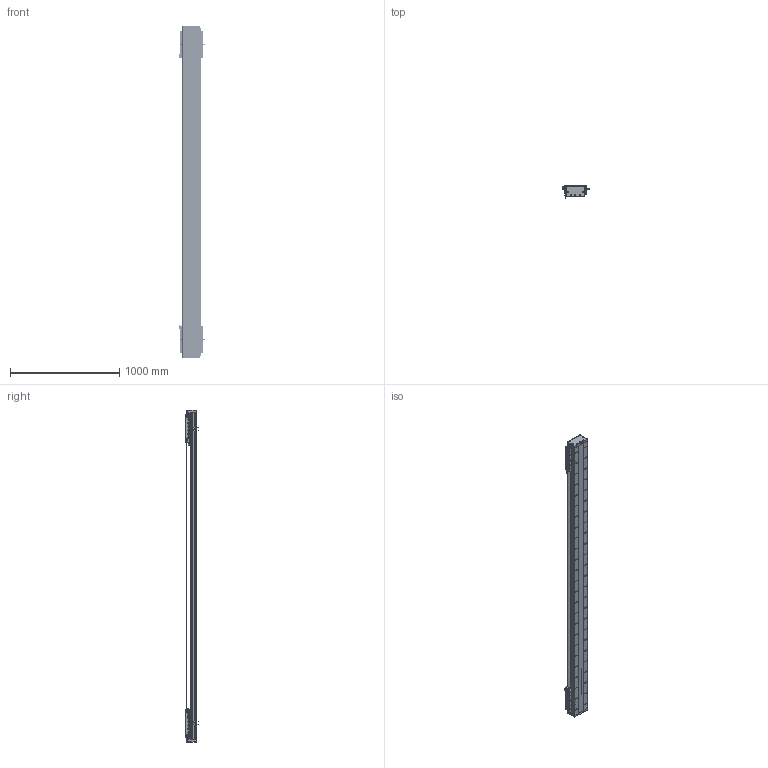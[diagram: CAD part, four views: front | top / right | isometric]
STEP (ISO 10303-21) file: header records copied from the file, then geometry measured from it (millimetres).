
FILE_DESCRIPTION (( 'STEP AP203' ), '1' );
FILE_NAME ('DA-C165-2-C3-T2420-C010-0.2 直线电机.STEP', '2023-06-13T09:17:05', ( '微软用户' ), ( '微软中国' ), 'SwSTEP 2.0', 'SolidWorks 2019', '' );
FILE_SCHEMA (( 'CONFIG_CONTROL_DESIGN' ));
Length unit declared in the file: millimetre
Products named in the file (22): 复件 DMA-010-0.2 读数头^DA-C165-C3-T-C010-0.2-N 直线电机; 复件 CU165钢带组件^DA-C165-C3-T-C010-0.2-N 直线电机; 葩璃 CKM01-W075-TRL^DA-C165-C3-T-C010-0.2-N 眻盄萇儂; 复件 DA165-GYP-00 光电感应片^DA-C165-C3-T-C010-0.2-N 直线电机; 复件 DA126-GYP-ZJ-00 中间光电感应片^DA-C165-C3-T-C010-0.2-N 直线电机; 葩璃 PM-T45^DA-C165-C3-T-C010-0.2-N 眻盄萇儂; 复件 DA165-GDYK-00 钢带压块^复件 CU165钢带组件_DA-C165-C3-T-C010-0.2-N 直线电机; 复件 XD-U-02L 磁栅尺^DA-C165-C3-T-C010-0.2-N 直线电机_T; 珨极趙賑雄怢啣C3-wf; 葩璃 PM-Y45^DA-C165-C3-T-C010-0.2-N 眻盄萇儂; 复件 DKW-HXJ-JY-00 缓冲橡胶^DA-C165-C3-T-C010-0.2-N 直线电机; 葩璃 DA95-GT-T-00^IU-CU165-L 菁釱絳寢_T; 复件 DA95-HXJ-00 缓冲橡胶^DA-C165-C3-T-C010-0.2-N 直线电机; 复件 DA165-GD-1860-002-00 钢带盖板^复件 CU165钢带组件_DA-C165-C3-T-C010-0.2-N 直线电机; 复件 六角薄螺母 M3^DA-C165-C3-T-C010-0.2-N 直线电机_GB_FASTENER_NUT_STNAB M3-C; 复件 DA165-GD-DG-H-00 端盖^复件 CU165钢带组件_DA-C165-C3-T-C010-0.2-N 直线电机; 复件 CU165 底座^IU-CU165-L 底座导轨_L3000; IU-CU165-L 菁釱絳寢; 葩璃 CKM03-W075-C1C2-TP-3.0^DA-C165-C3-T-C010-0.2-N 眻盄萇儂; 复件 DA165-GDLK-00 钢带拉块^复件 CU165钢带组件_DA-C165-C3-T-C010-0.2-N 直线电机; DA-C165-2-C3-T2420-C010-0.2 眻盄萇儂; 复件 66338-1000-006-00 光电感应块^DA-C165-C3-T-C010-0.2-N 直线电机
Assembly tree (45 placements, depth 3):
  DA-C165-2-C3-T2420-C010-0.2 眻盄萇儂
    IU-CU165-L 菁釱絳寢
      复件 CU165 底座^IU-CU165-L 底座导轨_L3000
      葩璃 DA95-GT-T-00^IU-CU165-L 菁釱絳寢_T  x4
    复件 XD-U-02L 磁栅尺^DA-C165-C3-T-C010-0.2-N 直线电机_T
    葩璃 PM-T45^DA-C165-C3-T-C010-0.2-N 眻盄萇儂  x4
    葩璃 CKM01-W075-TRL^DA-C165-C3-T-C010-0.2-N 眻盄萇儂
    复件 CU165钢带组件^DA-C165-C3-T-C010-0.2-N 直线电机
      复件 DA165-GD-DG-H-00 端盖^复件 CU165钢带组件_DA-C165-C3-T-C010-0.2-N 直线电机  x2
      复件 DA165-GDYK-00 钢带压块^复件 CU165钢带组件_DA-C165-C3-T-C010-0.2-N 直线电机  x2
      复件 DA165-GD-1860-002-00 钢带盖板^复件 CU165钢带组件_DA-C165-C3-T-C010-0.2-N 直线电机
      复件 DA165-GDLK-00 钢带拉块^复件 CU165钢带组件_DA-C165-C3-T-C010-0.2-N 直线电机  x2
    复件 DA95-HXJ-00 缓冲橡胶^DA-C165-C3-T-C010-0.2-N 直线电机  x4
    复件 DMA-010-0.2 读数头^DA-C165-C3-T-C010-0.2-N 直线电机  x2
    复件 DA165-GYP-00 光电感应片^DA-C165-C3-T-C010-0.2-N 直线电机  x2
    复件 66338-1000-006-00 光电感应块^DA-C165-C3-T-C010-0.2-N 直线电机
    葩璃 PM-Y45^DA-C165-C3-T-C010-0.2-N 眻盄萇儂
    复件 DA126-GYP-ZJ-00 中间光电感应片^DA-C165-C3-T-C010-0.2-N 直线电机
    葩璃 CKM03-W075-C1C2-TP-3.0^DA-C165-C3-T-C010-0.2-N 眻盄萇儂  x2
    复件 DKW-HXJ-JY-00 缓冲橡胶^DA-C165-C3-T-C010-0.2-N 直线电机  x2
    复件 六角薄螺母 M3^DA-C165-C3-T-C010-0.2-N 直线电机_GB_FASTENER_NUT_STNAB M3-C  x8
    珨极趙賑雄怢啣C3-wf  x2
Bounding box: 247.2 x 111.45 x 3040 mm (x, y, z)
Volume: 19249601.7 mm3; surface area: 5503974.6 mm2
Topology: 121 solids, 221 shells, 6761 faces, 18644 edges, 11636 vertices
Faces by surface type: cylinder 3662, plane 2031, cone 980, torus 80, sphere 8
Entity records: 158272 total; most frequent: CARTESIAN_POINT 43033, ORIENTED_EDGE 23872, DIRECTION 23176, EDGE_CURVE 11936, AXIS2_PLACEMENT_3D 8869, VERTEX_POINT 7790, EDGE_LOOP 5532, VECTOR 5438
